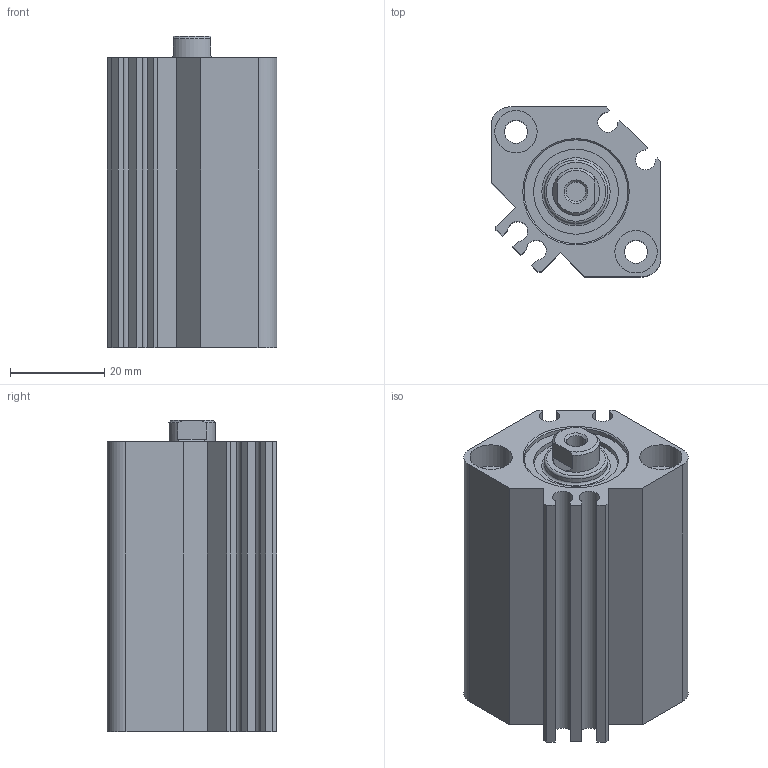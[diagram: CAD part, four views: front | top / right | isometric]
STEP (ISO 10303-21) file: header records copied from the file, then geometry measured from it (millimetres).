
FILE_DESCRIPTION( ( 'STEP AP214' ), '1' );
FILE_NAME( 'C:/Users/emc02044/Desktop/SQN SQN big size/SQN20X30-S.stp', '2026-07-29T00:46:29', ( 'License CC BY-ND 4.0' ), ( 'CADENAS' ), ' ', 'PARTsolutions', ' ' );
FILE_SCHEMA( ( 'AUTOMOTIVE_DESIGN { 1 0 10303 214 1 1 1 1 }' ) );
Length unit declared in the file: millimetre
Products named in the file (3): SQN20X30-S; _SQ20X30-S(0) ()_body; _SQ20X30-S(rod-0)
Assembly tree (2 placements, depth 2):
  SQN20X30-S
    _SQ20X30-S(0) ()_body
    _SQ20X30-S(rod-0)
Bounding box: 36 x 36 x 66 mm (x, y, z)
Volume: 52852.4 mm3; surface area: 22240.6 mm2
Topology: 2 solids, 2 shells, 89 faces, 192 edges, 125 vertices
Faces by surface type: plane 50, cylinder 27, cone 10, torus 2
Full cylindrical faces by diameter (mm): 4.134 x3, 4.917 x4, 5.4 x2, 9 x4, 10 x2, 13.5 x1, 18 x1, 20 x3, 22 x1
Entity records: 3028 total; most frequent: DIRECTION 408, CARTESIAN_POINT 386, ORIENTED_EDGE 318, AXIS2_PLACEMENT_3D 161, EDGE_CURVE 159, EDGE_LOOP 142, VERTEX_POINT 123, FACE_OUTER_BOUND 112
